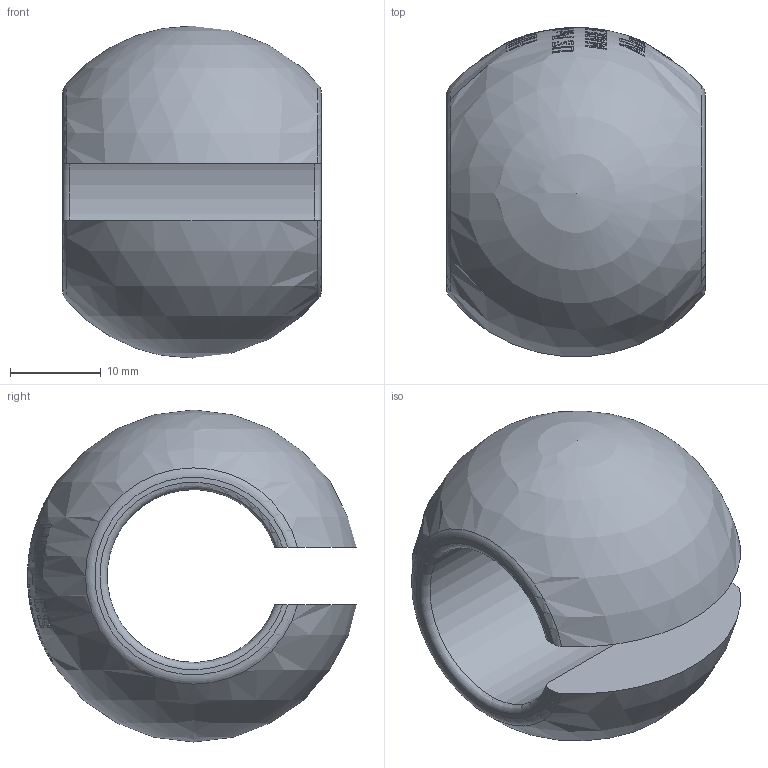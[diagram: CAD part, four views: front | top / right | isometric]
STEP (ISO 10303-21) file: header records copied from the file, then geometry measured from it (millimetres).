
FILE_DESCRIPTION(/* description */ ('HDPL SERIES CLAM SHELL'),/* implementation_level */ '2;1');
FILE_NAME(/* name */ 'C:\Users\Shayne Riley\Documents\Vault\AD&D\Management\Website\Website STP files\HDPL-CS.stp',/* time_stamp */ '2020-05-07T14:04:28-04:00',/* author */ ('Shayne Riley'),/* organization */ (''),/* preprocessor_version */ 'ST-DEVELOPER v18.1',/* originating_system */ 'Autodesk Inventor 2021',/* authorisation */ '');
FILE_SCHEMA (('AUTOMOTIVE_DESIGN { 1 0 10303 214 3 1 1 }'));
Length unit declared in the file: inch
Products named in the file (2): HDPL-CS; 60242
Assembly tree (1 placements, depth 2):
  HDPL-CS
    60242
Bounding box: 28.57 x 36.31 x 36.65 mm (x, y, z)
Volume: 14622.7 mm3; surface area: 5197.8 mm2
Topology: 1 solids, 1 shells, 692 faces, 1881 edges, 1254 vertices
Faces by surface type: plane 497, bspline 124, sphere 66, torus 4, cylinder 1
Entity records: 25579 total; most frequent: CARTESIAN_POINT 7850, DIRECTION 3765, ORIENTED_EDGE 3758, EDGE_CURVE 1879, AXIS2_PLACEMENT_3D 1571, VERTEX_POINT 1254, CIRCLE 1000, EDGE_LOOP 757
